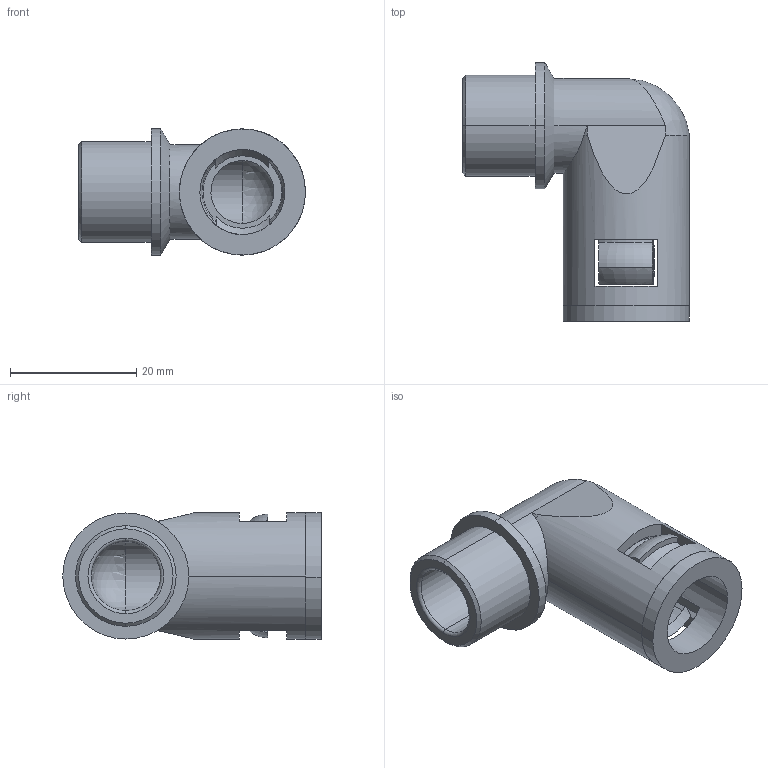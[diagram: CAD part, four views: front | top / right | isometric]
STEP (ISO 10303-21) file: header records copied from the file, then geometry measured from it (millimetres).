
FILE_DESCRIPTION (( 'STEP AP203' ), '1' );
FILE_NAME ('WQW-M16-AD13.0.STEP', '2020-03-16T01:07:07', ( '' ), ( '' ), 'SwSTEP 2.0', 'SolidWorks 2016', '' );
FILE_SCHEMA (( 'CONFIG_CONTROL_DESIGN' ));
Length unit declared in the file: millimetre
Products named in the file (4): WQW-M16-AD13.0-01; GFD-AD13.0; NSK-AD13.0; WQW-M16-AD13.0
Assembly tree (3 placements, depth 2):
  WQW-M16-AD13.0
    WQW-M16-AD13.0-01
    GFD-AD13.0
    NSK-AD13.0
Bounding box: 36 x 41 x 20 mm (x, y, z)
Volume: 6640.7 mm3; surface area: 8454.8 mm2
Topology: 2 solids, 5 shells, 132 faces, 300 edges, 177 vertices
Faces by surface type: cone 48, plane 36, cylinder 26, torus 18, sphere 4
Entity records: 4279 total; most frequent: CARTESIAN_POINT 830, DIRECTION 708, ORIENTED_EDGE 586, EDGE_CURVE 297, AXIS2_PLACEMENT_3D 293, VERTEX_POINT 177, CIRCLE 154, EDGE_LOOP 150
